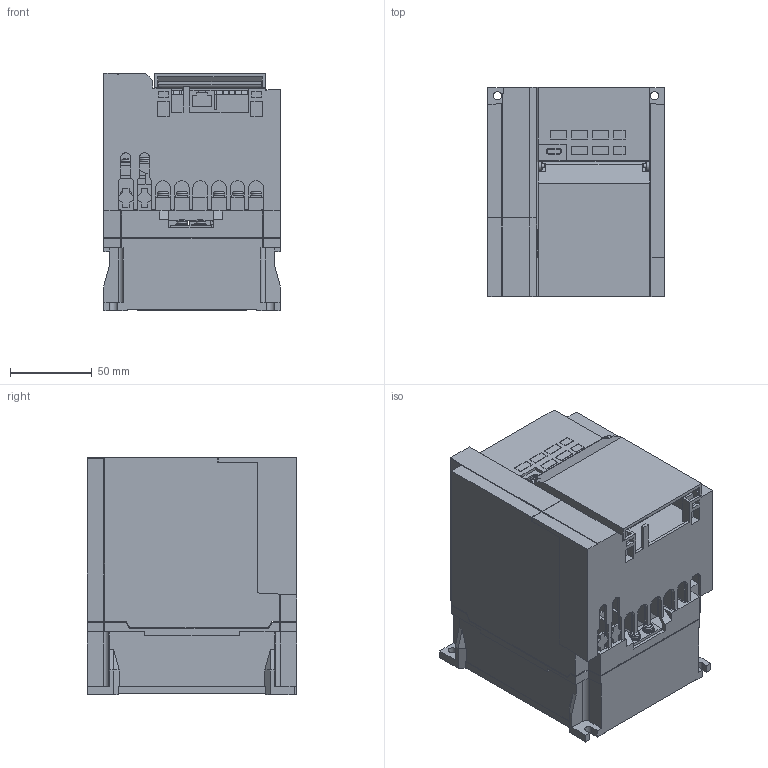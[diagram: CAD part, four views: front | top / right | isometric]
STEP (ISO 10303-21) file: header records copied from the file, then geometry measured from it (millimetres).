
FILE_DESCRIPTION((''),'2;1');
FILE_NAME('3D-INV-53_04_ASM','2024-11-26T16:22:55',('CT89920'),(''),'CREO PARAMETRIC BY PTC INC, 2022281','CREO PARAMETRIC BY PTC INC, 2022281','');
FILE_SCHEMA(('CONFIG_CONTROL_DESIGN','SHAPE_APPEARANCE_LAYERS_GROUPS'));
Length unit declared in the file: millimetre
Products named in the file (8): 3D-BASE-53_04E; 3D-TE_SHORT-31_06; 3D-TE_NEJI-M4X8-ZA7; 3D-TE-NEJI-34_05_ASM; 3D-SW-PW-P-M3_5X10; 3D-W_COV-53_04; 3D-S_COV-D80-1_5; 3D-INV-53_04_ASM
Assembly tree (16 placements, depth 3):
  3D-INV-53_04_ASM
    3D-BASE-53_04E
    3D-TE-NEJI-34_05_ASM
      3D-TE_SHORT-31_06
      3D-TE_NEJI-M4X8-ZA7  x9
    3D-SW-PW-P-M3_5X10  x2
    3D-W_COV-53_04
    3D-S_COV-D80-1_5
Bounding box: 108 x 128 x 145 mm (x, y, z)
Volume: 705146.3 mm3; surface area: 256895.9 mm2
Topology: 15 solids, 15 shells, 1287 faces, 3529 edges, 2275 vertices
Faces by surface type: plane 1093, cylinder 126, torus 24, cone 22, sphere 22
Entity records: 44265 total; most frequent: CARTESIAN_POINT 6455, ORIENTED_EDGE 6378, DIRECTION 5752, EDGE_CURVE 3189, VECTOR 2944, LINE 2944, VERTEX_POINT 2088, PRESENTATION_STYLE_ASSIGNMENT 1517
